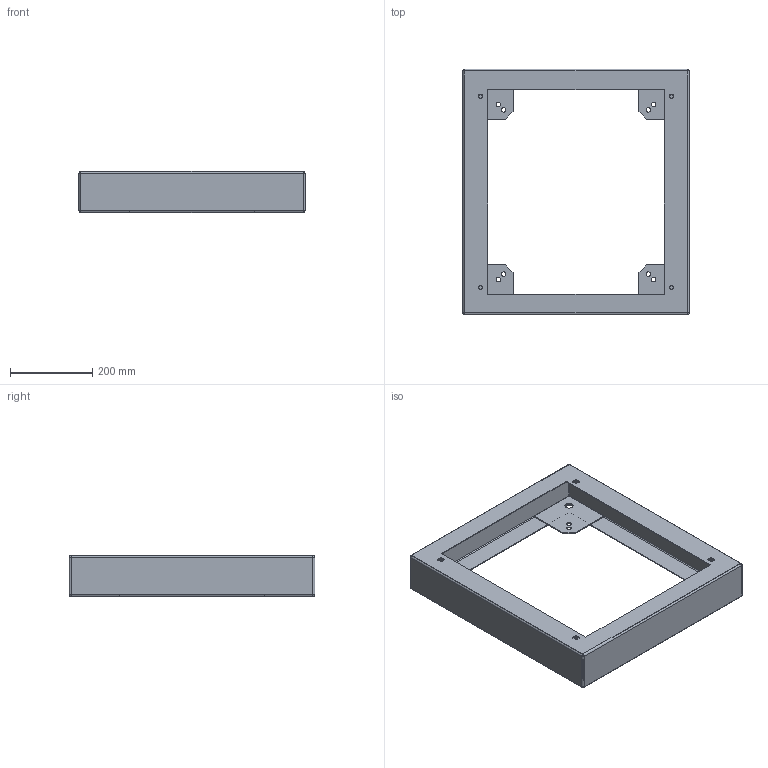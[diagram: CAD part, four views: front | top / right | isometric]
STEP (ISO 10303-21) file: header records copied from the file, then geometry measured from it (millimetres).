
FILE_DESCRIPTION(('STEP AP203'), '1');
FILE_NAME('3710 Öîêîëü ñâàðíîé', '', ('UNSPECIFIED'), ('UNSPECIFIED'), 'C3D Converter', 'C3D Toolkit', '');
FILE_SCHEMA(('CONFIG_CONTROL_DESIGN'));
Length unit declared in the file: millimetre
Products named in the file (2): 3710.60.60
Assembly tree (4 placements, depth 2):
  3710.60.60
    (unnamed)  x4
Bounding box: 550 x 598 x 100 mm (x, y, z)
Volume: 976173.5 mm3; surface area: 913903.7 mm2
Topology: 5 solids, 5 shells, 167 faces, 420 edges, 260 vertices
Faces by surface type: plane 79, cylinder 56, cone 16, sphere 16
Full cylindrical faces by diameter (mm): 8.376 x4, 11 x12, 16 x4, 20 x4
Entity records: 4628 total; most frequent: CARTESIAN_POINT 1434, DIRECTION 660, ORIENTED_EDGE 552, EDGE_CURVE 276, AXIS2_PLACEMENT_3D 259, EDGE_LOOP 194, VERTEX_POINT 182, FACE_BOUND 146
